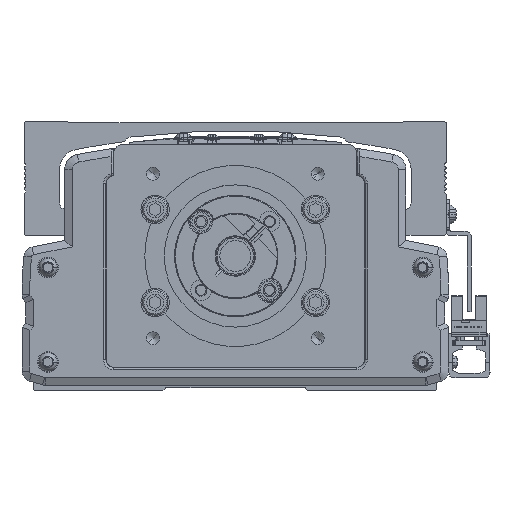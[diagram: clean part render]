
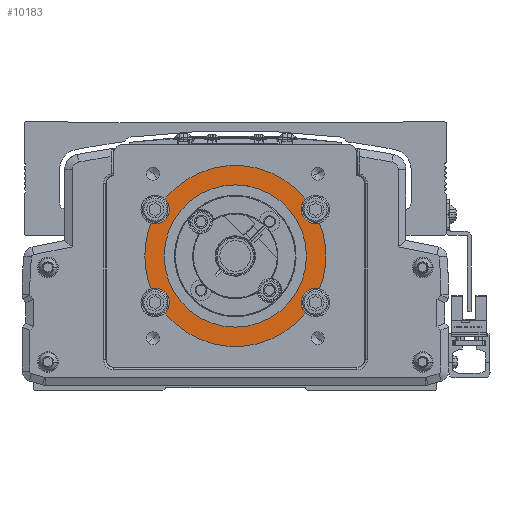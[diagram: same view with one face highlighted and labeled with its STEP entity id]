
A CAD part, front view. The second image highlights one B-rep face of the part: STEP entity #10183.
In plain terms, the highlighted planar face has unit normal (0, -1, 0).
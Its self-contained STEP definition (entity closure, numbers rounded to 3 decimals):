
#10183=ADVANCED_FACE('',(#21016,#21017),#21018,.F.);
#21016=FACE_OUTER_BOUND('',#35365,.T.);
#21017=FACE_BOUND('',#35366,.T.);
#21018=PLANE('',#35367);
#35365=EDGE_LOOP('',(#64753,#64754,#64755,#64756,#64757,#64758,#64759,#64760,#64761,#64762,#64763,#64764,#64765,#64766));
#35366=EDGE_LOOP('',(#64767,#64768));
#35367=AXIS2_PLACEMENT_3D('',#64769,#64770,#64771);
#64753=ORIENTED_EDGE('',*,*,#83084,.F.);
#64754=ORIENTED_EDGE('',*,*,#82833,.T.);
#64755=ORIENTED_EDGE('',*,*,#80546,.T.);
#64756=ORIENTED_EDGE('',*,*,#82779,.F.);
#64757=ORIENTED_EDGE('',*,*,#79057,.F.);
#64758=ORIENTED_EDGE('',*,*,#75611,.T.);
#64759=ORIENTED_EDGE('',*,*,#76498,.F.);
#64760=ORIENTED_EDGE('',*,*,#77955,.F.);
#64761=ORIENTED_EDGE('',*,*,#75967,.T.);
#64762=ORIENTED_EDGE('',*,*,#81567,.T.);
#64763=ORIENTED_EDGE('',*,*,#71144,.F.);
#64764=ORIENTED_EDGE('',*,*,#74427,.F.);
#64765=ORIENTED_EDGE('',*,*,#83085,.T.);
#64766=ORIENTED_EDGE('',*,*,#76845,.F.);
#64767=ORIENTED_EDGE('',*,*,#82227,.F.);
#64768=ORIENTED_EDGE('',*,*,#81570,.F.);
#64769=CARTESIAN_POINT('',(-600.,-296.778,0.));
#64770=DIRECTION('',(0.,1.0,0.));
#64771=DIRECTION('',(-1.0,0.,0.));
#71144=EDGE_CURVE('',#84176,#84178,#84179,.T.);
#74427=EDGE_CURVE('',#90057,#84176,#90059,.T.);
#75611=EDGE_CURVE('',#91976,#91980,#91982,.T.);
#75967=EDGE_CURVE('',#92532,#92530,#92533,.T.);
#76498=EDGE_CURVE('',#93388,#91980,#93390,.T.);
#76845=EDGE_CURVE('',#93925,#93927,#93928,.T.);
#77955=EDGE_CURVE('',#92532,#93388,#95587,.T.);
#79057=EDGE_CURVE('',#91976,#97185,#97186,.T.);
#80546=EDGE_CURVE('',#99177,#99179,#99181,.T.);
#81567=EDGE_CURVE('',#92530,#84178,#100459,.T.);
#81570=EDGE_CURVE('',#100462,#100464,#100465,.T.);
#82227=EDGE_CURVE('',#100464,#100462,#101254,.T.);
#82779=EDGE_CURVE('',#97185,#99179,#101888,.T.);
#82833=EDGE_CURVE('',#101950,#99177,#101951,.T.);
#83084=EDGE_CURVE('',#101950,#93925,#102222,.T.);
#83085=EDGE_CURVE('',#90057,#93927,#102223,.T.);
#84176=VERTEX_POINT('',#103400);
#84178=VERTEX_POINT('',#103403);
#84179=CIRCLE('',#103404,5.5);
#90057=VERTEX_POINT('',#111941);
#90059=CIRCLE('',#111944,5.5);
#91976=VERTEX_POINT('',#114700);
#91980=VERTEX_POINT('',#114705);
#91982=CIRCLE('',#114708,35.0);
#92530=VERTEX_POINT('',#115462);
#92532=VERTEX_POINT('',#115465);
#92533=CIRCLE('',#115466,35.0);
#93388=VERTEX_POINT('',#116636);
#93390=CIRCLE('',#116639,5.5);
#93925=VERTEX_POINT('',#117405);
#93927=VERTEX_POINT('',#117408);
#93928=CIRCLE('',#117409,5.5);
#95587=CIRCLE('',#119862,5.5);
#97185=VERTEX_POINT('',#122066);
#97186=CIRCLE('',#122067,5.5);
#99177=VERTEX_POINT('',#125018);
#99179=VERTEX_POINT('',#125021);
#99181=CIRCLE('',#125024,35.0);
#100459=CIRCLE('',#127107,35.0);
#100462=VERTEX_POINT('',#127110);
#100464=VERTEX_POINT('',#127113);
#100465=CIRCLE('',#127114,27.5);
#101254=CIRCLE('',#128251,27.5);
#101888=CIRCLE('',#129245,5.5);
#101950=VERTEX_POINT('',#129321);
#101951=CIRCLE('',#129322,35.0);
#102222=CIRCLE('',#129702,5.5);
#102223=CIRCLE('',#129703,35.0);
#103400=CARTESIAN_POINT('',(-574.5,-296.778,18.));
#103403=CARTESIAN_POINT('',(-567.4,-296.778,12.738));
#103404=AXIS2_PLACEMENT_3D('',#131060,#131061,#131062);
#111941=CARTESIAN_POINT('',(-572.777,-296.778,21.998));
#111944=AXIS2_PLACEMENT_3D('',#135679,#135680,#135681);
#114700=CARTESIAN_POINT('',(-627.223,-296.778,-21.998));
#114705=CARTESIAN_POINT('',(-572.777,-296.778,-21.998));
#114708=AXIS2_PLACEMENT_3D('',#137278,#137279,#137280);
#115462=CARTESIAN_POINT('',(-565.,-296.778,0.));
#115465=CARTESIAN_POINT('',(-567.4,-296.778,-12.738));
#115466=AXIS2_PLACEMENT_3D('',#137747,#137748,#137749);
#116636=CARTESIAN_POINT('',(-574.5,-296.778,-18.));
#116639=AXIS2_PLACEMENT_3D('',#138552,#138553,#138554);
#117405=CARTESIAN_POINT('',(-625.5,-296.778,18.));
#117408=CARTESIAN_POINT('',(-627.223,-296.778,21.998));
#117409=AXIS2_PLACEMENT_3D('',#139065,#139066,#139067);
#119862=AXIS2_PLACEMENT_3D('',#140534,#140535,#140536);
#122066=CARTESIAN_POINT('',(-625.5,-296.778,-18.));
#122067=AXIS2_PLACEMENT_3D('',#142021,#142022,#142023);
#125018=CARTESIAN_POINT('',(-635.,-296.778,0.));
#125021=CARTESIAN_POINT('',(-632.6,-296.778,-12.738));
#125024=AXIS2_PLACEMENT_3D('',#143842,#143843,#143844);
#127107=AXIS2_PLACEMENT_3D('',#144952,#144953,#144954);
#127110=CARTESIAN_POINT('',(-627.5,-296.778,0.));
#127113=CARTESIAN_POINT('',(-572.5,-296.778,0.));
#127114=AXIS2_PLACEMENT_3D('',#144956,#144957,#144958);
#128251=AXIS2_PLACEMENT_3D('',#145734,#145735,#145736);
#129245=AXIS2_PLACEMENT_3D('',#146260,#146261,#146262);
#129321=CARTESIAN_POINT('',(-632.6,-296.778,12.738));
#129322=AXIS2_PLACEMENT_3D('',#146313,#146314,#146315);
#129702=AXIS2_PLACEMENT_3D('',#146522,#146523,#146524);
#129703=AXIS2_PLACEMENT_3D('',#146525,#146526,#146527);
#131060=CARTESIAN_POINT('',(-569.,-296.778,18.));
#131061=DIRECTION('',(0.,-1.0,0.));
#131062=DIRECTION('',(1.0,0.,0.));
#135679=CARTESIAN_POINT('',(-569.,-296.778,18.));
#135680=DIRECTION('',(0.,-1.0,0.));
#135681=DIRECTION('',(1.0,0.,0.));
#137278=CARTESIAN_POINT('',(-600.,-296.778,0.));
#137279=DIRECTION('',(0.,-1.0,0.));
#137280=DIRECTION('',(-1.0,0.,0.));
#137747=CARTESIAN_POINT('',(-600.,-296.778,0.));
#137748=DIRECTION('',(0.,-1.0,0.));
#137749=DIRECTION('',(-1.0,0.,0.));
#138552=CARTESIAN_POINT('',(-569.,-296.778,-18.));
#138553=DIRECTION('',(0.,-1.0,0.));
#138554=DIRECTION('',(1.0,0.,0.));
#139065=CARTESIAN_POINT('',(-631.,-296.778,18.));
#139066=DIRECTION('',(0.,-1.0,0.));
#139067=DIRECTION('',(-1.0,0.,0.));
#140534=CARTESIAN_POINT('',(-569.,-296.778,-18.));
#140535=DIRECTION('',(0.,-1.0,0.));
#140536=DIRECTION('',(1.0,0.,0.));
#142021=CARTESIAN_POINT('',(-631.,-296.778,-18.));
#142022=DIRECTION('',(0.,-1.0,0.));
#142023=DIRECTION('',(-1.0,0.,0.));
#143842=CARTESIAN_POINT('',(-600.,-296.778,0.));
#143843=DIRECTION('',(0.,-1.0,0.));
#143844=DIRECTION('',(-1.0,0.,0.));
#144952=CARTESIAN_POINT('',(-600.,-296.778,0.));
#144953=DIRECTION('',(0.,-1.0,0.));
#144954=DIRECTION('',(-1.0,0.,0.));
#144956=CARTESIAN_POINT('',(-600.,-296.778,0.));
#144957=DIRECTION('',(0.,-1.0,0.));
#144958=DIRECTION('',(-1.0,0.,0.));
#145734=CARTESIAN_POINT('',(-600.,-296.778,0.));
#145735=DIRECTION('',(0.,-1.0,0.));
#145736=DIRECTION('',(-1.0,0.,0.));
#146260=CARTESIAN_POINT('',(-631.,-296.778,-18.));
#146261=DIRECTION('',(0.,-1.0,0.));
#146262=DIRECTION('',(-1.0,0.,0.));
#146313=CARTESIAN_POINT('',(-600.,-296.778,0.));
#146314=DIRECTION('',(0.,-1.0,0.));
#146315=DIRECTION('',(-1.0,0.,0.));
#146522=CARTESIAN_POINT('',(-631.,-296.778,18.));
#146523=DIRECTION('',(0.,-1.0,0.));
#146524=DIRECTION('',(-1.0,0.,0.));
#146525=CARTESIAN_POINT('',(-600.,-296.778,0.));
#146526=DIRECTION('',(0.,-1.0,0.));
#146527=DIRECTION('',(-1.0,0.,0.));
